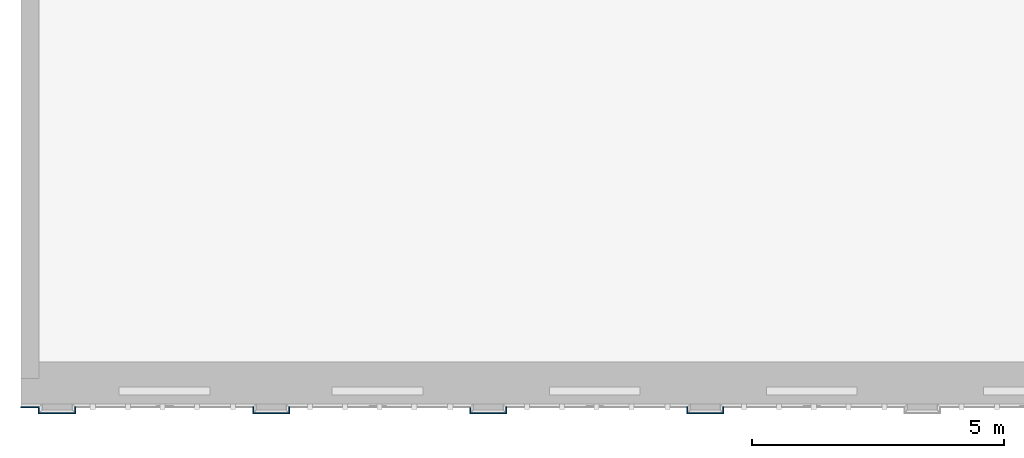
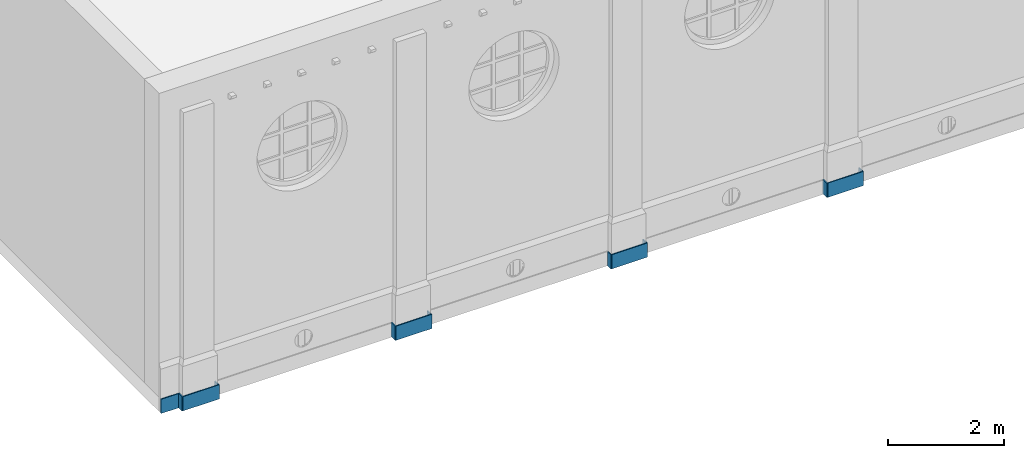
"""IFC4 building model written with IfcOpenShell, lengths in metres."""

from ifc_helpers import new_model, entity, si_unit, converted_unit, derived_unit, frame, frame_2d, origin, origin_with_axes, place, context, subcontext, project, spatial, rectangle, extrude, material, layer, layer_set, layer_usage, element, save


model = new_model("IFC4")

# Units and contexts
model_context = context("Model", 3, precision=1e-05, world=origin())
body_context = subcontext(model_context, "Body", "Model", "MODEL_VIEW")
ifc_project = project(units=[si_unit("LENGTHUNIT", "METRE"), si_unit("AREAUNIT", "SQUARE_METRE"), si_unit("VOLUMEUNIT", "CUBIC_METRE"), si_unit("MASSUNIT", "GRAM", prefix="KILO"), converted_unit("PLANEANGLEUNIT", "DEGREE", entity("IfcPlaneAngleMeasure", 0.0174532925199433), si_unit("PLANEANGLEUNIT", "RADIAN"), dimensions=[0, 0, 0, 0, 0, 0, 0]), derived_unit("THERMALTRANSMITTANCEUNIT", [(si_unit("POWERUNIT", "WATT"), 1), (si_unit("THERMODYNAMICTEMPERATUREUNIT", "KELVIN"), -1), (si_unit("LENGTHUNIT", "METRE"), -2)]), derived_unit("VOLUMETRICFLOWRATEUNIT", [(si_unit("LENGTHUNIT", "METRE"), 3), (converted_unit("TIMEUNIT", "hour", entity("IfcTimeMeasure", 3600.0), si_unit("TIMEUNIT", "SECOND"), dimensions=[0, 0, 1, 0, 0, 0, 0]), -1), (si_unit("LENGTHUNIT", "METRE"), -1)])], contexts=[model_context])

# Building, storeys
building_placement = place(None, origin())
building = spatial("IfcBuilding", under=ifc_project, at=building_placement, Name="Bestandsgebäude A - Sporthalle / Wohnhaus (TB 100-499)   ANPASSEN !!!", CompositionType="ELEMENT")
storey_1_placement = place(building_placement, origin())
storey_1 = spatial("IfcBuildingStorey", under=building, at=storey_1_placement, Name="Geb. A Erdgeschoss (TB 200-249)", CompositionType="ELEMENT", Elevation=0.0)
storey_2_placement = place(storey_1_placement, origin())
storey_2 = spatial("IfcBuildingStorey", under=storey_1, at=storey_2_placement, Name="Architektur (TB 200-209)", CompositionType="PARTIAL")

# Walls
ifc_material_1 = material(Name="concrete")
ifc_layer_1 = layer(ifc_material_1, 0.02)
ifc_layer_set_1 = layer_set([ifc_layer_1])
ifc_layer_usage_1 = layer_usage(ifc_layer_set_1, "AXIS2", "POSITIVE", 0.0)
wall_1_placement = place(storey_2_placement, frame((-31.0, -0.0500000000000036, -0.3), z_axis=(0.0, 0.0, 1.0), x_axis=(-1.0, 0.0, 0.0)))
element("IfcWall", 1, at=wall_1_placement, inside=storey_2, material=ifc_layer_usage_1, Name="reinforced - bearing", PredefinedType="USERDEFINED", context=body_context, shape_type="SweptSolid", body=[
    extrude(rectangle(XDim=0.37, YDim=0.02, at=frame_2d((0.185, 0.01), x_axis=(1.0, 0.0))), origin_with_axes(), (0.0, 0.0, 1.0), 0.3),
])
ifc_material_2 = material(Name="concrete")
ifc_layer_2 = layer(ifc_material_2, 0.02)
ifc_layer_set_2 = layer_set([ifc_layer_2])
ifc_layer_usage_2 = layer_usage(ifc_layer_set_2, "AXIS2", "POSITIVE", 0.0)
wall_2_placement = place(storey_2_placement, frame((-31.0, -0.189999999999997, -0.3), z_axis=(0.0, 0.0, 1.0), x_axis=(0.0, 1.0, 0.0)))
element("IfcWall", 2, at=wall_2_placement, inside=storey_2, material=ifc_layer_usage_2, Name="reinforced - bearing", PredefinedType="USERDEFINED", context=body_context, shape_type="SweptSolid", body=[
    extrude(rectangle(XDim=0.119999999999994, YDim=0.02, at=frame_2d((0.0599999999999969, 0.01), x_axis=(1.0, 0.0))), origin_with_axes(), (0.0, 0.0, 1.0), 0.3),
])
ifc_material_3 = material(Name="concrete")
ifc_layer_3 = layer(ifc_material_3, 0.02)
ifc_layer_set_3 = layer_set([ifc_layer_3])
ifc_layer_usage_3 = layer_usage(ifc_layer_set_3, "AXIS2", "POSITIVE", 0.0)
wall_3_placement = place(storey_2_placement, frame((-30.28, -0.169999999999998, -0.3), z_axis=(0.0, 0.0, 1.0), x_axis=(-1.0, 2.36847578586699e-16, 0.0)))
element("IfcWall", 3, at=wall_3_placement, inside=storey_2, material=ifc_layer_usage_3, Name="reinforced - bearing", PredefinedType="USERDEFINED", context=body_context, shape_type="SweptSolid", body=[
    extrude(rectangle(XDim=0.720000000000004, YDim=0.02, at=frame_2d((0.360000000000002, 0.01), x_axis=(1.0, 0.0))), origin_with_axes(), (0.0, 0.0, 1.0), 0.3),
])
ifc_material_4 = material(Name="concrete")
ifc_layer_4 = layer(ifc_material_4, 0.02)
ifc_layer_set_4 = layer_set([ifc_layer_4])
ifc_layer_usage_4 = layer_usage(ifc_layer_set_4, "AXIS2", "POSITIVE", 0.0)
wall_4_placement = place(storey_2_placement, frame((-30.3, -0.0500000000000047, -0.3), z_axis=(0.0, 0.0, 1.0), x_axis=(0.0, -1.0, 0.0)))
element("IfcWall", 4, at=wall_4_placement, inside=storey_2, material=ifc_layer_usage_4, Name="reinforced - bearing", PredefinedType="USERDEFINED", context=body_context, shape_type="SweptSolid", body=[
    extrude(rectangle(XDim=0.119999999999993, YDim=0.02, at=frame_2d((0.0599999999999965, 0.01), x_axis=(1.0, 0.0))), origin_with_axes(), (0.0, 0.0, 1.0), 0.3),
])
ifc_material_5 = material(Name="concrete")
ifc_layer_5 = layer(ifc_material_5, 0.02)
ifc_layer_set_5 = layer_set([ifc_layer_5])
ifc_layer_usage_5 = layer_usage(ifc_layer_set_5, "AXIS2", "POSITIVE", 0.0)
wall_5_placement = place(storey_2_placement, frame((-26.755, -0.189999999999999, -0.3), z_axis=(0.0, 0.0, 1.0), x_axis=(2.59855629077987e-14, 1.0, 0.0)))
element("IfcWall", 5, at=wall_5_placement, inside=storey_2, material=ifc_layer_usage_5, Name="reinforced - bearing", PredefinedType="USERDEFINED", context=body_context, shape_type="SweptSolid", body=[
    extrude(rectangle(XDim=0.139999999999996, YDim=0.02, at=frame_2d((0.0699999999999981, 0.01), x_axis=(1.0, 0.0))), origin_with_axes(), (0.0, 0.0, 1.0), 0.3),
])
ifc_material_6 = material(Name="concrete")
ifc_layer_6 = layer(ifc_material_6, 0.02)
ifc_layer_set_6 = layer_set([ifc_layer_6])
ifc_layer_usage_6 = layer_usage(ifc_layer_set_6, "AXIS2", "POSITIVE", 0.0)
wall_6_placement = place(storey_2_placement, frame((-26.045, -0.169999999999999, -0.3), z_axis=(0.0, 0.0, 1.0), x_axis=(-1.0, -1.20091729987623e-16, 0.0)))
element("IfcWall", 6, at=wall_6_placement, inside=storey_2, material=ifc_layer_usage_6, Name="reinforced - bearing", PredefinedType="USERDEFINED", context=body_context, shape_type="SweptSolid", body=[
    extrude(rectangle(XDim=0.71, YDim=0.02, at=frame_2d((0.355, 0.01), x_axis=(1.0, 0.0))), origin_with_axes(), (0.0, 0.0, 1.0), 0.3),
])
ifc_material_7 = material(Name="concrete")
ifc_layer_7 = layer(ifc_material_7, 0.02)
ifc_layer_set_7 = layer_set([ifc_layer_7])
ifc_layer_usage_7 = layer_usage(ifc_layer_set_7, "AXIS2", "POSITIVE", 0.0)
wall_7_placement = place(storey_2_placement, frame((-26.065, -0.0500000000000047, -0.3), z_axis=(0.0, 0.0, 1.0), x_axis=(0.0, -1.0, 0.0)))
element("IfcWall", 7, at=wall_7_placement, inside=storey_2, material=ifc_layer_usage_7, Name="reinforced - bearing", PredefinedType="USERDEFINED", context=body_context, shape_type="SweptSolid", body=[
    extrude(rectangle(XDim=0.119999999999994, YDim=0.02, at=frame_2d((0.0599999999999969, 0.01), x_axis=(1.0, 0.0))), origin_with_axes(), (0.0, 0.0, 1.0), 0.3),
])
ifc_material_8 = material(Name="concrete")
ifc_layer_8 = layer(ifc_material_8, 0.02)
ifc_layer_set_8 = layer_set([ifc_layer_8])
ifc_layer_usage_8 = layer_usage(ifc_layer_set_8, "AXIS2", "POSITIVE", 0.0)
wall_8_placement = place(storey_2_placement, frame((-22.455, -0.190000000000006, -0.3), z_axis=(0.0, 0.0, 1.0), x_axis=(0.0, 1.0, 0.0)))
element("IfcWall", 8, at=wall_8_placement, inside=storey_2, material=ifc_layer_usage_8, Name="reinforced - bearing", PredefinedType="USERDEFINED", context=body_context, shape_type="SweptSolid", body=[
    extrude(rectangle(XDim=0.12, YDim=0.02, at=frame_2d((0.06, 0.01), x_axis=(1.0, 0.0))), origin_with_axes(), (0.0, 0.0, 1.0), 0.3),
])
ifc_material_9 = material(Name="concrete")
ifc_layer_9 = layer(ifc_material_9, 0.02)
ifc_layer_set_9 = layer_set([ifc_layer_9])
ifc_layer_usage_9 = layer_usage(ifc_layer_set_9, "AXIS2", "POSITIVE", 0.0)
wall_9_placement = place(storey_2_placement, frame((-21.745, -0.169999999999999, -0.3), z_axis=(0.0, 0.0, 1.0), x_axis=(-1.0, -1.03278887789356e-14, 0.0)))
element("IfcWall", 9, at=wall_9_placement, inside=storey_2, material=ifc_layer_usage_9, Name="reinforced - bearing", PredefinedType="USERDEFINED", context=body_context, shape_type="SweptSolid", body=[
    extrude(rectangle(XDim=0.709999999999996, YDim=0.02, at=frame_2d((0.354999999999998, 0.01), x_axis=(1.0, 0.0))), origin_with_axes(), (0.0, 0.0, 1.0), 0.3),
])
ifc_material_10 = material(Name="concrete")
ifc_layer_10 = layer(ifc_material_10, 0.02)
ifc_layer_set_10 = layer_set([ifc_layer_10])
ifc_layer_usage_10 = layer_usage(ifc_layer_set_10, "AXIS2", "POSITIVE", 0.0)
wall_10_placement = place(storey_2_placement, frame((-21.765, -0.0500000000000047, -0.3), z_axis=(0.0, 0.0, 1.0), x_axis=(0.0, -1.0, 0.0)))
element("IfcWall", 10, at=wall_10_placement, inside=storey_2, material=ifc_layer_usage_10, Name="reinforced - bearing", PredefinedType="USERDEFINED", context=body_context, shape_type="SweptSolid", body=[
    extrude(rectangle(XDim=0.119999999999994, YDim=0.02, at=frame_2d((0.0599999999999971, 0.01), x_axis=(1.0, 0.0))), origin_with_axes(), (0.0, 0.0, 1.0), 0.3),
])
ifc_material_11 = material(Name="concrete")
ifc_layer_11 = layer(ifc_material_11, 0.02)
ifc_layer_set_11 = layer_set([ifc_layer_11])
ifc_layer_usage_11 = layer_usage(ifc_layer_set_11, "AXIS2", "POSITIVE", 0.0)
wall_11_placement = place(storey_2_placement, frame((-18.155, -0.189999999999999, -0.3), z_axis=(0.0, 0.0, 1.0), x_axis=(0.0, 1.0, 0.0)))
element("IfcWall", 11, at=wall_11_placement, inside=storey_2, material=ifc_layer_usage_11, Name="reinforced - bearing", PredefinedType="USERDEFINED", context=body_context, shape_type="SweptSolid", body=[
    extrude(rectangle(XDim=0.139999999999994, YDim=0.02, at=frame_2d((0.0699999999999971, 0.01), x_axis=(1.0, 0.0))), origin_with_axes(), (0.0, 0.0, 1.0), 0.3),
])
ifc_material_12 = material(Name="concrete")
ifc_layer_12 = layer(ifc_material_12, 0.02)
ifc_layer_set_12 = layer_set([ifc_layer_12])
ifc_layer_usage_12 = layer_usage(ifc_layer_set_12, "AXIS2", "POSITIVE", 0.0)
wall_12_placement = place(storey_2_placement, frame((-17.445, -0.169999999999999, -0.3), z_axis=(0.0, 0.0, 1.0), x_axis=(-1.0, 4.80366919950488e-16, 0.0)))
element("IfcWall", 12, at=wall_12_placement, inside=storey_2, material=ifc_layer_usage_12, Name="reinforced - bearing", PredefinedType="USERDEFINED", context=body_context, shape_type="SweptSolid", body=[
    extrude(rectangle(XDim=0.710000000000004, YDim=0.02, at=frame_2d((0.355000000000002, 0.01), x_axis=(1.0, 0.0))), origin_with_axes(), (0.0, 0.0, 1.0), 0.3),
])
ifc_material_13 = material(Name="concrete")
ifc_layer_13 = layer(ifc_material_13, 0.02)
ifc_layer_set_13 = layer_set([ifc_layer_13])
ifc_layer_usage_13 = layer_usage(ifc_layer_set_13, "AXIS2", "POSITIVE", 0.0)
wall_13_placement = place(storey_2_placement, frame((-17.465, -0.0500000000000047, -0.3), z_axis=(0.0, 0.0, 1.0), x_axis=(0.0, -1.0, 0.0)))
element("IfcWall", 13, at=wall_13_placement, inside=storey_2, material=ifc_layer_usage_13, Name="reinforced - bearing", PredefinedType="USERDEFINED", context=body_context, shape_type="SweptSolid", body=[
    extrude(rectangle(XDim=0.119999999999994, YDim=0.02, at=frame_2d((0.0599999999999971, 0.01), x_axis=(1.0, 0.0))), origin_with_axes(), (0.0, 0.0, 1.0), 0.3),
])

save(model, "model.ifc")
